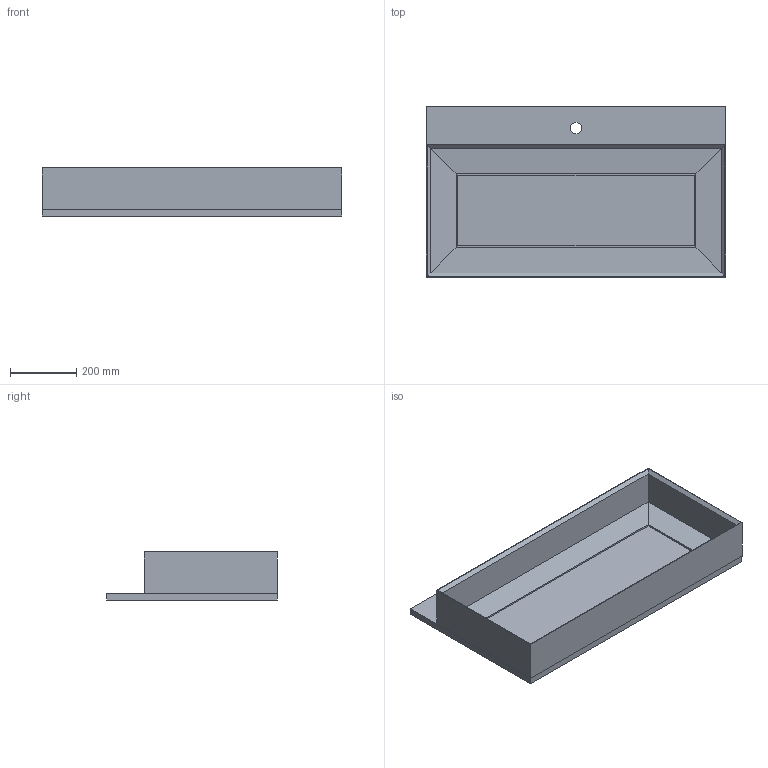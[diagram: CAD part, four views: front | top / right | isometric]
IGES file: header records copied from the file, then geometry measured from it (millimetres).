
Start section: Data from Parasolid IGES Translator 19.0.9, Copyright(c) 2006 Siemens PL M Software. All Rights Reserved.
Global section: file name: noorth-top-H 2 D 51,3 W 90_4651.igs; native system: By Siemens PLM Incorporated; preprocessor: XPlus GENERIC/IGES 19.0.9; author: Noname; organization: Noname; date: 20200603.115530; units: metre
Bounding box: 900 x 513 x 145 mm (x, y, z)
Volume: 15368602.2 mm3; surface area: 2299520.8 mm2
Topology: 2 solids, 2 shells, 43 faces, 107 edges, 66 vertices
Faces by surface type: plane 42, cylinder 1
Full cylindrical faces by diameter (mm): 34.9 x1
